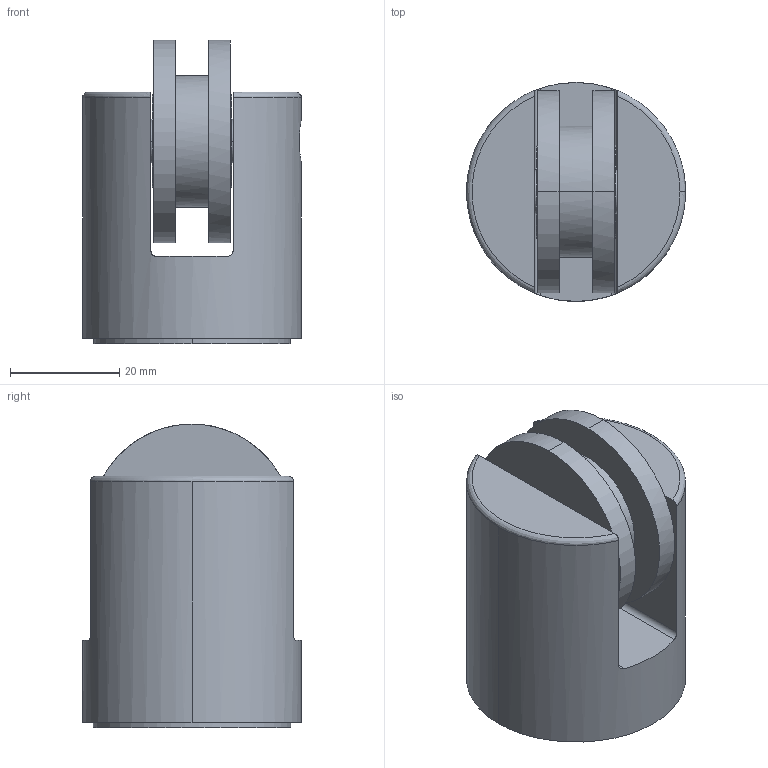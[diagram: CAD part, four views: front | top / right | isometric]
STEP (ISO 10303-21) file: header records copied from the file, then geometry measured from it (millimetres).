
FILE_DESCRIPTION(/* description */ (''),/* implementation_level */ '2;1');
FILE_NAME(/* name */ 'Funivia - Diverter Small',/* time_stamp */ '2022-08-29T17:17:56+02:00',/* author */ (''),/* organization */ (''),/* preprocessor_version */ 'ST-DEVELOPER v16.5',/* originating_system */ 'Rhino 7.17',/* authorisation */ '');
FILE_SCHEMA (('AUTOMOTIVE_DESIGN'));
Length unit declared in the file: millimetre
Products named in the file (1): Document
Bounding box: 40 x 40 x 55.5 mm (x, y, z)
Volume: 49442.5 mm3; surface area: 18571.1 mm2
Topology: 4 solids, 4 shells, 77 faces, 179 edges, 116 vertices
Faces by surface type: cylinder 38, plane 26, bspline 13
Entity records: 2573 total; most frequent: CARTESIAN_POINT 1321, ORIENTED_EDGE 354, EDGE_CURVE 177, VERTEX_POINT 116, EDGE_LOOP 93, B_SPLINE_CURVE_WITH_KNOTS 83, ADVANCED_FACE 77, FACE_OUTER_BOUND 77
